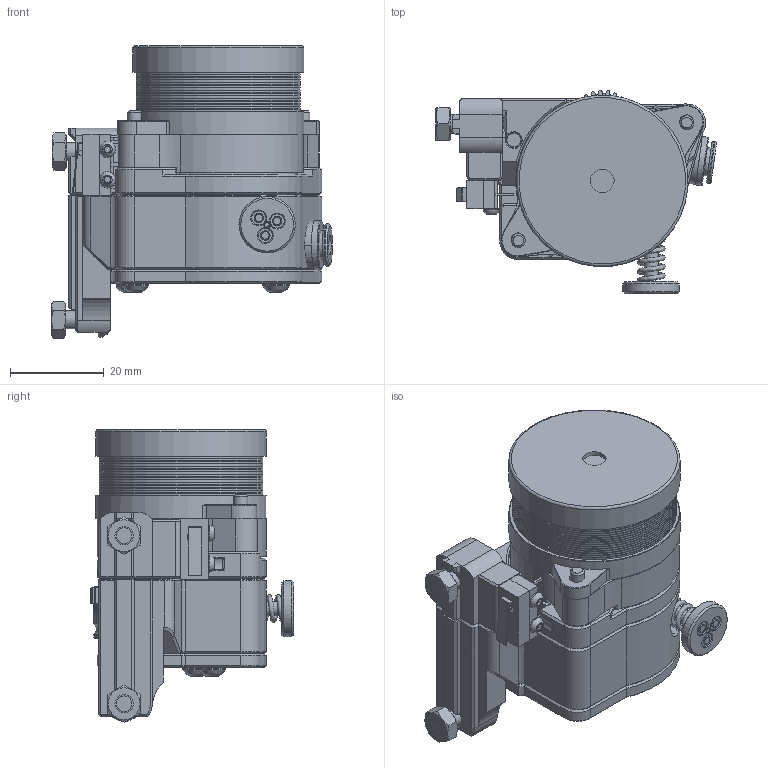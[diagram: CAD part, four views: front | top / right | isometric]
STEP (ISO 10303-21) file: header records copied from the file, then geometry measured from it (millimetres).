
FILE_DESCRIPTION(/* description */ (''),/* implementation_level */ '2;1');
FILE_NAME(/* name */ 'Extruder BETA v1.1.step',/* time_stamp */ '2026-01-26T17:50:12-05:00',/* author */ (''),/* organization */ (''),/* preprocessor_version */ 'ST-DEVELOPER v20.1',/* originating_system */ 'Autodesk Translation Framework v14.21.0.0',/* authorisation */ '');
FILE_SCHEMA (('AUTOMOTIVE_DESIGN { 1 0 10303 214 3 1 1 }'));
Products named in the file (41): PosPro_Extruder Pfusch; 挤出机3A; Extruder Printed; Extruder Motor Plate  2 [3DP]; 挤出机盖子; Extruder Main Body  2 [3DP]; 轮子扳手3A; Extruder Hardware; Screws; M3x8 BHCS v1 (15); M3x8 BHCS v1 (15)_1; M3x8 BHCS v1 (15)_2; M2x10 Self-tapping Screw v1; M2x10 Self-tapping Screw v1 (1); Heatset (2); M3 Threaded Insert v1; M3 Threaded Insert v1 (1); M4x10 BHCS; M4 Nut; 92095A186_NO THREADS_Button Head Hex Drive Screw; 鲍登夹; Main body (9); Release clip (9); Endstop; ÏÞÎ»¿ª¹Ø.step; LDO-36STH20-1004AHG; Spring Assembly; BMG Spring; M3 Thumb Screw; Nylon Washer; Extruder Gear; Molded Gear Housing (65 teeth); PV3定制版  Orbiter 2.0 v2.8 LDO Molding_MotorGearV2; PV3定制版  Orbiter 2.0 v2.8 LDO Molding_Orbiter Spider 
Shaft v4; PV3定制版  Orbiter 2.0 v2.8 LDO Molding_FlyGear (1); pom柱; M4x16轴; Bearings; PV3定制版  Orbiter 2.0 v2.8 LDO Molding
_MF148ZZ; PV3定制版  Orbiter 2.0 v2.8 LDO Molding
_MF148ZZ_1 ...
Assembly tree (47 placements, depth 6):
  PosPro_Extruder Pfusch
    挤出机3A
      Extruder Printed
        Extruder Motor Plate  2 [3DP]
        挤出机盖子
        Extruder Main Body  2 [3DP]
        轮子扳手3A
      Extruder Hardware
        Screws
          M4x10 BHCS  x2
          M4 Nut  x2
          M3x8 BHCS v1 (15)
          M3x8 BHCS v1 (15)_1
          M3x8 BHCS v1 (15)_2
          M2x10 Self-tapping Screw v1
          M2x10 Self-tapping Screw v1 (1)
          Heatset (2)
            M3 Threaded Insert v1 (1)  x3
            M3 Threaded Insert v1
          92095A186_NO THREADS_Button Head Hex Drive Screw  x2
        鲍登夹
          Main body (9)
          Release clip (9)
        Endstop
          ÏÞÎ»¿ª¹Ø.step
        LDO-36STH20-1004AHG
        Spring Assembly
          BMG Spring
          M3 Thumb Screw
          Nylon Washer
      Extruder Gear
        Molded spur gear 27 teeth v1 (2)  x3
        Molded Gear Housing (65 teeth)
        PV3定制版  Orbiter 2.0 v2.8 LDO Molding_MotorGearV2
        PV3定制版  Orbiter 2.0 v2.8 LDO Molding_Orbiter Spider 
Shaft v4
        PV3定制版  Orbiter 2.0 v2.8 LDO Molding_FlyGear (1)
        pom柱
        M4x16轴
        Bearings
          PV3定制版  Orbiter 2.0 v2.8 LDO Molding
_MF148ZZ
          PV3定制版  Orbiter 2.0 v2.8 LDO Molding
_MF148ZZ_1
Bounding box: 59.85 x 43.34 x 62.38 mm (x, y, z)
Volume: 57634.3 mm3; surface area: 41230 mm2
Topology: 51 solids, 52 shells, 3469 faces, 9092 edges, 5841 vertices
Faces by surface type: bspline 1077, cylinder 1070, plane 846, cone 357, sphere 98, torus 21
Full cylindrical faces by diameter (mm): 1.8 x2, 2 x6, 2.5 x1, 2.529 x1, 2.9 x4, 2.927 x3, 3 x6, 3.2 x6, 3.3 x3, 3.332 x2, 3.5 x8, 3.6 x2, 3.908 x3, 4 x2, 4.2 x9, 4.25 x4, 4.6 x4, 4.7 x5, 5 x7, 5.6 x1, 5.7 x2, 5.75 x6, 5.8 x6, 6 x3, 7.25 x6, 7.5 x2, 7.8 x1, 8 x14, 8.2 x1, 8.47 x1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
Entity records: 109007 total; most frequent: CARTESIAN_POINT 38233, ORIENTED_EDGE 15274, DIRECTION 13588, EDGE_CURVE 7637, AXIS2_PLACEMENT_3D 5218, VERTEX_POINT 4879, LINE 3152, VECTOR 3152
